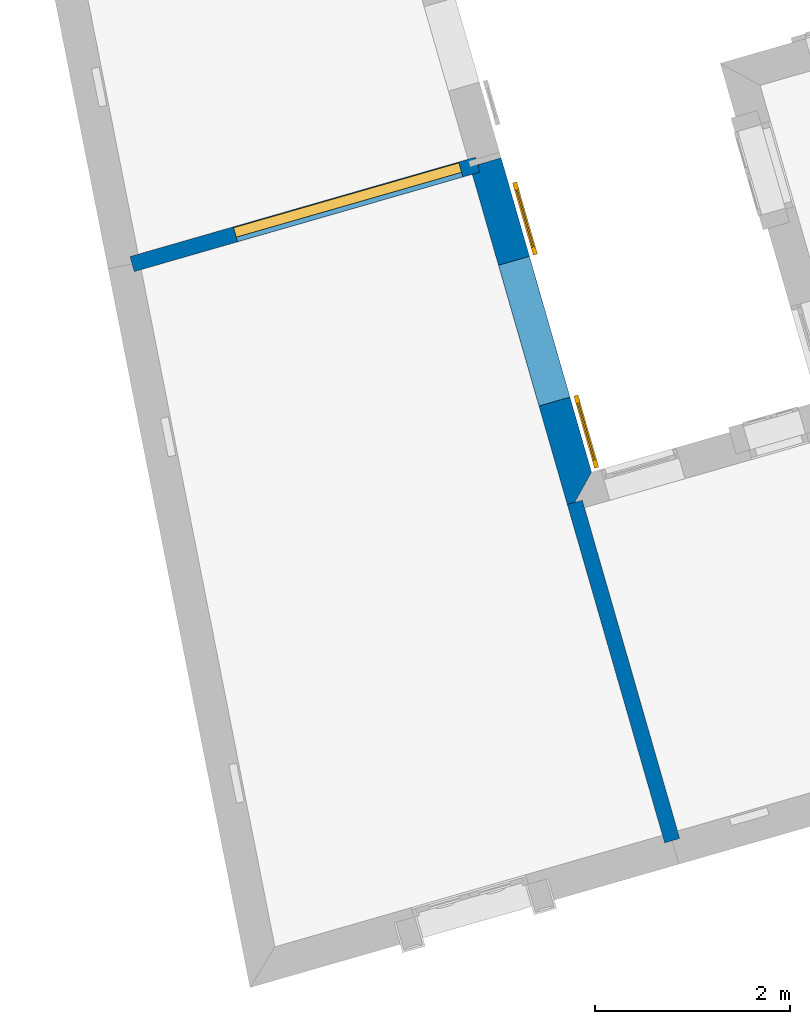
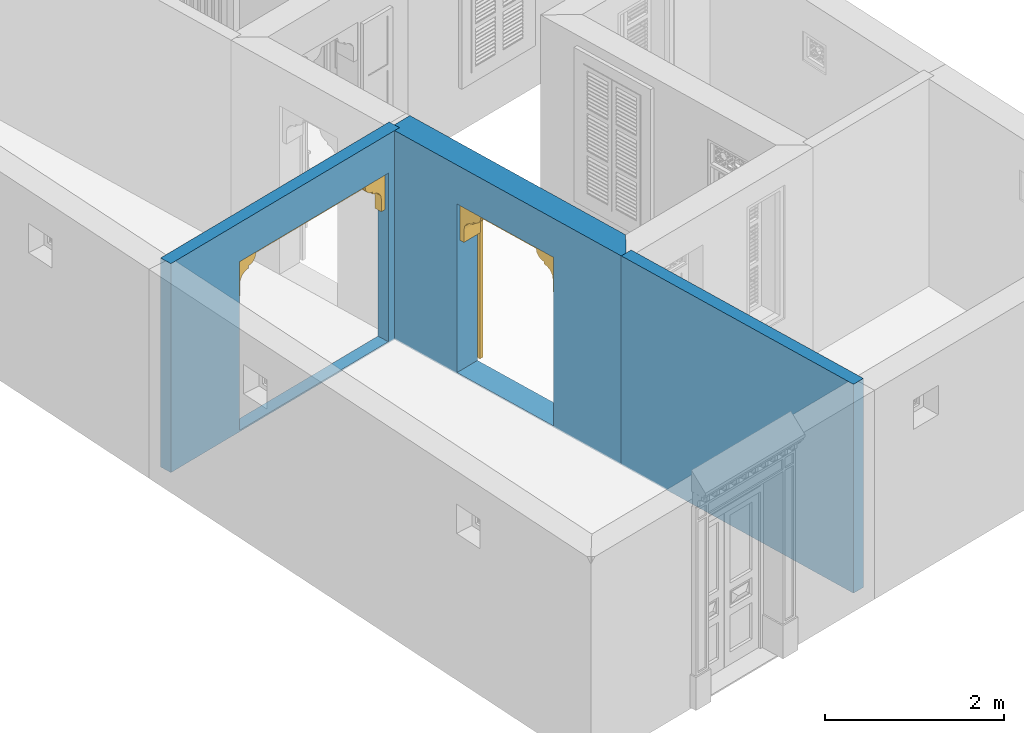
# One storey, part 3 of 16: 3 walls, 2 doors, 2 openings.
"""IFC4 building model written with IfcOpenShell, lengths in metres."""

from ifc_helpers import new_model, si_unit, frame, origin, origin_with_axes, place, context, subcontext, project, spatial, polyline, outline, extrude, faceted_brep, source, transform, mapped, material, layer, layer_set, layer_usage, type_object, type_shapes, element, fill, save


model = new_model("IFC4")

# Units and contexts
model_context = context("Model", 3, world=origin_with_axes())
body_context = subcontext(model_context, "Body", "Model", "MODEL_VIEW")
ifc_project = project(units=[si_unit("PLANEANGLEUNIT", "RADIAN"), si_unit("MASSUNIT", "GRAM", prefix="KILO"), si_unit("FORCEUNIT", "NEWTON", prefix="KILO"), si_unit("LENGTHUNIT", "METRE"), si_unit("AREAUNIT", "SQUARE_METRE"), si_unit("VOLUMEUNIT", "CUBIC_METRE")], contexts=[model_context, model_context])

# Site, building, storey
site_placement = place(None, origin_with_axes())
site = spatial("IfcSite", under=ifc_project, at=site_placement, Name="Site plot-9", CompositionType="ELEMENT")
building_placement = place(None, origin_with_axes())
building = spatial("IfcBuilding", under=site, at=building_placement, Name="Building plot-9", CompositionType="ELEMENT")
storey_placement = place(None, origin_with_axes())
storey = spatial("IfcBuildingStorey", under=building, at=storey_placement, Name="plot-9 0", CompositionType="ELEMENT", Elevation=0.0)

# Wall, opening, door
ifc_material_1 = material(Name="Masonry")
ifc_layer_1 = layer(ifc_material_1, 0.33, ventilated=False)
ifc_layer_set_1 = layer_set([ifc_layer_1], Name="exterior_0.08_0.25")
ifc_layer_usage_1 = layer_usage(ifc_layer_set_1, "AXIS2", "POSITIVE", -0.25)
wall_type_1 = type_object("IfcWallType", Name="exterior_0.08_0.25", PredefinedType="SOLIDWALL", material=ifc_layer_set_1)
wall_1_placement = place(storey_placement, frame((-17.0911735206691, -2.13319942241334, 0.0), z_axis=(0.0, 0.0, 1.0), x_axis=(-0.27652304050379, 0.961007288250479, 0.0)))
wall_1 = element("IfcWall", 1, at=wall_1_placement, inside=storey, type_object=wall_type_1, material=ifc_layer_usage_1, Name="exterior", context=body_context, shape_type="SweptSolid", body=[
    extrude(outline(polyline([(-0.0799999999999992, 0.0800000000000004), (0.249999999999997, -0.250000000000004), (3.59686229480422, -0.250000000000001), (3.59686229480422, 0.0800000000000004), (-0.0799999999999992, 0.0800000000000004)])), origin_with_axes(), (0.0, 0.0, 1.0), 2.85),
])
opening_1_placement = place(wall_1_placement, frame((1.04843114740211, 0.0, 0.02)))
opening_1 = element("IfcOpeningElement", 2, at=opening_1_placement, cuts=wall_1, Name="My Opening", ObjectType="Opening", context=body_context, shape_type="SweptSolid", body=[
    extrude(outline(polyline([(0.0, -0.270000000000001), (1.5, -0.269999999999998), (1.5, 1.1), (-6.66133814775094e-16, 1.1), (0.0, -0.270000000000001)])), origin_with_axes(), (0.0, 0.0, 1.0), 2.3),
])
door_type_1 = type_object("IfcDoorType", Name="arch-1500x2300", OperationType="SINGLE_SWING_LEFT", PredefinedType="NOTDEFINED")
shared_shape_1 = source(origin(), body_context, "Body", "Brep", [
    faceted_brep([(-0.08, -0.02, 0.08), (-0.08, -0.02, 0.0), (-0.69, -0.02, 0.0), (-0.69, -0.02, 0.08), (-0.77, -0.02, 0.0), (-0.77, -0.02, 0.08), (-0.69, -0.035, 0.08), (-0.08, -0.035, 0.08), (0.0, -0.02, 0.08), (0.0, -0.02, 0.0), (-0.08, -0.066, 0.0), (-0.69, -0.066, 0.0), (-0.77, -0.066, 0.0), (-0.77, -0.066, 0.08), (-0.69, -0.02, 0.743333), (-0.77, -0.02, 0.743333), (-0.69, -0.035, 0.743333), (-0.08, -0.035, 0.743333), (-0.08, -0.02, 0.743333), (0.0, -0.02, 0.743333), (0.0, -0.066, 0.08), (0.0, -0.066, 0.0), (-0.69, -0.066, 0.08), (-0.08, -0.066, 0.08), (-0.77, -0.066, 0.743333), (-0.69, -0.02, 0.823333), (-0.77, -0.02, 0.823333), (0.0, -0.066, 0.743333), (0.0, -0.02, 0.823333), (-0.08, -0.02, 0.823333), (-0.08, -0.051, 0.08), (-0.69, -0.051, 0.08), (-0.69, -0.066, 0.743333), (-0.77, -0.066, 0.823333), (-0.69, -0.02, 1.486667), (-0.77, -0.02, 1.486667), (0.0, -0.066, 0.823333), (-0.08, -0.066, 0.743333), (0.0, -0.02, 1.486667), (-0.08, -0.02, 1.486667), (-0.08, -0.051, 0.743333), (-0.69, -0.051, 0.743333), (-0.69, -0.066, 0.823333), (-0.77, -0.066, 1.486667), (-0.69, -0.035, 0.823333), (-0.08, -0.035, 0.823333), (-0.69, -0.035, 1.486667), (-0.69, -0.02, 1.566667), (-0.77, -0.02, 1.566667), (0.0, -0.066, 1.486667), (-0.08, -0.066, 0.823333), (-0.08, -0.035, 1.486667), (0.0, -0.02, 1.566667), (-0.08, -0.02, 1.566667), (-0.69, -0.066, 1.486667), (-0.77, -0.066, 1.566667), (-0.69, -0.02, 2.23), (-0.77, -0.02, 2.23), (0.0, -0.066, 1.566667), (-0.08, -0.066, 1.486667), (0.0, -0.02, 2.23), (-0.08, -0.02, 2.23), (-0.08, -0.051, 0.823333), (-0.69, -0.051, 0.823333), (-0.69, -0.051, 1.486667), (-0.69, -0.066, 1.566667), (-0.77, -0.066, 2.23), (-0.69, -0.035, 1.566667), (-0.08, -0.035, 1.566667), (-0.69, -0.035, 2.23), (-0.69, -0.02, 2.31), (-0.77, -0.02, 2.31), (0.0, -0.066, 2.23), (-0.08, -0.066, 1.566667), (-0.08, -0.051, 1.486667), (-0.08, -0.035, 2.23), (0.0, -0.02, 2.31), (-0.08, -0.02, 2.31), (-0.69, -0.066, 2.23), (-0.77, -0.066, 2.31), (-0.69, -0.066, 2.31), (0.0, -0.066, 2.31), (-0.08, -0.066, 2.23), (-0.08, -0.066, 2.31), (-0.08, -0.051, 1.566667), (-0.69, -0.051, 1.566667), (-0.69, -0.051, 2.23), (-0.08, -0.051, 2.23), (2.19, -0.02, 0.08), (2.19, -0.02, 0.0), (1.58, -0.02, 0.0), (1.58, -0.02, 0.08), (2.27, -0.02, 0.08), (2.27, -0.02, 0.0), (1.58, -0.035, 0.08), (2.19, -0.035, 0.08), (1.5, -0.02, 0.0), (1.5, -0.02, 0.08), (2.19, -0.066, 0.0), (1.58, -0.066, 0.0), (2.27, -0.066, 0.08), (2.27, -0.066, 0.0), (2.27, -0.02, 0.743333), (2.19, -0.02, 0.743333), (2.19, -0.035, 0.743333), (1.58, -0.035, 0.743333), (1.58, -0.02, 0.743333), (1.5, -0.02, 0.743333), (1.5, -0.066, 0.0), (1.5, -0.066, 0.08), (1.58, -0.066, 0.08), (2.19, -0.066, 0.08), (2.27, -0.066, 0.743333), (2.27, -0.02, 0.823333), (2.19, -0.02, 0.823333), (1.5, -0.066, 0.743333), (1.58, -0.02, 0.823333), (1.5, -0.02, 0.823333), (2.19, -0.051, 0.08), (1.58, -0.051, 0.08), (2.19, -0.066, 0.743333), (2.27, -0.066, 0.823333), (2.27, -0.02, 1.486667), (2.19, -0.02, 1.486667), (1.5, -0.066, 0.823333), (1.58, -0.066, 0.743333), (1.58, -0.02, 1.486667), (1.5, -0.02, 1.486667), (1.58, -0.051, 0.743333), (2.19, -0.051, 0.743333), (2.19, -0.066, 0.823333), (2.27, -0.066, 1.486667), (1.58, -0.035, 0.823333), (2.19, -0.035, 0.823333), (2.19, -0.035, 1.486667), (2.27, -0.02, 1.566667), (2.19, -0.02, 1.566667), (1.5, -0.066, 1.486667), (1.58, -0.066, 0.823333), (1.58, -0.035, 1.486667), (1.58, -0.02, 1.566667), (1.5, -0.02, 1.566667), (2.19, -0.066, 1.486667), (2.27, -0.066, 1.566667), (2.27, -0.02, 2.23), (2.19, -0.02, 2.23), (1.5, -0.066, 1.566667), (1.58, -0.066, 1.486667), (1.58, -0.02, 2.23), (1.5, -0.02, 2.23), (2.19, -0.051, 0.823333), (1.58, -0.051, 0.823333), (2.19, -0.051, 1.486667), (2.19, -0.066, 1.566667), (2.27, -0.066, 2.23), (1.58, -0.035, 1.566667), (2.19, -0.035, 1.566667), (2.19, -0.035, 2.23), (2.27, -0.02, 2.31), (2.19, -0.02, 2.31), (1.5, -0.066, 2.23), (1.58, -0.066, 1.566667), (1.58, -0.051, 1.486667), (1.58, -0.035, 2.23), (1.58, -0.02, 2.31), (1.5, -0.02, 2.31), (2.19, -0.066, 2.23), (2.27, -0.066, 2.31), (2.19, -0.066, 2.31), (1.5, -0.066, 2.31), (1.58, -0.066, 2.23), (1.58, -0.066, 2.31), (2.19, -0.051, 1.566667), (1.58, -0.051, 1.566667), (2.19, -0.051, 2.23), (1.58, -0.051, 2.23), (1.5, 0.03, 1.78), (1.5, 0.03, 1.95), (1.44, 0.03, 1.95), (1.44, 0.03, 1.78), (1.44, 0.3, 1.95), (1.44, 0.3, 1.78), (1.5, 0.03, 2.12), (1.429, 0.03, 2.004), (1.5, 0.3, 1.78), (1.5, 0.3, 1.95), (1.429, 0.3, 2.004), (1.399, 0.03, 2.049), (1.5, 0.3, 2.12), (1.399, 0.3, 2.049), (1.354, 0.03, 2.079), (1.5, 0.3, 2.29), (1.5, 0.03, 2.29), (1.354, 0.3, 2.079), (1.3, 0.03, 2.09), (1.3, 0.03, 2.12), (1.254, 0.03, 2.129), (1.18, 0.3, 2.29), (1.18, 0.03, 2.29), (1.3, 0.3, 2.12), (1.254, 0.3, 2.129), (1.3, 0.3, 2.09), (1.215, 0.03, 2.155), (1.189, 0.3, 2.194), (1.18, 0.3, 2.24), (1.18, 0.03, 2.24), (1.189, 0.03, 2.194), (1.215, 0.3, 2.155), (0.06, 0.03, 1.78), (0.06, 0.03, 1.95), (0.0, 0.03, 1.95), (0.0, 0.03, 1.78), (0.06, 0.3, 1.78), (0.06, 0.3, 1.95), (0.071, 0.03, 2.004), (0.0, 0.03, 2.12), (0.0, 0.3, 1.95), (0.0, 0.3, 1.78), (0.071, 0.3, 2.004), (0.101, 0.03, 2.049), (0.0, 0.3, 2.12), (0.101, 0.3, 2.049), (0.146, 0.03, 2.079), (0.0, 0.03, 2.29), (0.0, 0.3, 2.29), (0.146, 0.3, 2.079), (0.2, 0.03, 2.12), (0.2, 0.03, 2.09), (0.246, 0.03, 2.129), (0.32, 0.03, 2.29), (0.32, 0.3, 2.29), (0.246, 0.3, 2.129), (0.2, 0.3, 2.12), (0.2, 0.3, 2.09), (0.285, 0.03, 2.155), (0.32, 0.3, 2.24), (0.311, 0.3, 2.194), (0.311, 0.03, 2.194), (0.32, 0.03, 2.24), (0.285, 0.3, 2.155)], [[[0, 1, 2, 3]], [[4, 5, 3, 2]], [[0, 3, 6, 7]], [[1, 0, 8, 9]], [[2, 1, 10, 11]], [[5, 4, 12, 13]], [[14, 3, 5, 15]], [[4, 2, 11, 12]], [[3, 14, 16, 6]], [[6, 16, 17, 7]], [[18, 0, 7, 17]], [[0, 18, 19, 8]], [[9, 8, 20, 21]], [[1, 9, 21, 10]], [[22, 11, 10, 23]], [[13, 12, 11, 22]], [[15, 5, 13, 24]], [[25, 14, 15, 26]], [[14, 18, 17, 16]], [[8, 19, 27, 20]], [[28, 19, 18, 29]], [[23, 10, 21, 20]], [[22, 23, 30, 31]], [[22, 32, 24, 13]], [[26, 15, 24, 33]], [[29, 18, 14, 25]], [[34, 25, 26, 35]], [[19, 28, 36, 27]], [[20, 27, 37, 23]], [[38, 28, 29, 39]], [[23, 37, 40, 30]], [[41, 31, 30, 40]], [[32, 22, 31, 41]], [[32, 42, 33, 24]], [[35, 26, 33, 43]], [[29, 25, 44, 45]], [[25, 34, 46, 44]], [[47, 34, 35, 48]], [[28, 38, 49, 36]], [[27, 36, 50, 37]], [[39, 29, 45, 51]], [[52, 38, 39, 53]], [[37, 32, 41, 40]], [[37, 50, 42, 32]], [[42, 54, 43, 33]], [[48, 35, 43, 55]], [[44, 46, 51, 45]], [[34, 39, 51, 46]], [[34, 47, 53, 39]], [[56, 47, 48, 57]], [[38, 52, 58, 49]], [[36, 49, 59, 50]], [[60, 52, 53, 61]], [[42, 50, 62, 63]], [[54, 42, 63, 64]], [[54, 65, 55, 43]], [[57, 48, 55, 66]], [[53, 47, 67, 68]], [[47, 56, 69, 67]], [[70, 56, 57, 71]], [[52, 60, 72, 58]], [[49, 58, 73, 59]], [[50, 59, 74, 62]], [[61, 53, 68, 75]], [[76, 60, 61, 77]], [[64, 63, 62, 74]], [[59, 54, 64, 74]], [[65, 54, 59, 73]], [[65, 78, 66, 55]], [[71, 57, 66, 79]], [[67, 69, 75, 68]], [[56, 61, 75, 69]], [[77, 61, 56, 70]], [[70, 71, 79, 80]], [[60, 76, 81, 72]], [[58, 72, 82, 73]], [[76, 77, 83, 81]], [[65, 73, 84, 85]], [[78, 65, 85, 86]], [[78, 80, 79, 66]], [[77, 70, 80, 83]], [[72, 81, 83, 82]], [[73, 82, 87, 84]], [[86, 85, 84, 87]], [[82, 78, 86, 87]], [[82, 83, 80, 78]], [[88, 89, 90, 91]], [[89, 88, 92, 93]], [[94, 95, 88, 91]], [[96, 97, 91, 90]], [[98, 99, 90, 89]], [[100, 101, 93, 92]], [[102, 92, 88, 103]], [[101, 98, 89, 93]], [[95, 104, 103, 88]], [[94, 105, 104, 95]], [[105, 94, 91, 106]], [[97, 107, 106, 91]], [[108, 109, 97, 96]], [[99, 108, 96, 90]], [[110, 99, 98, 111]], [[111, 98, 101, 100]], [[112, 100, 92, 102]], [[113, 102, 103, 114]], [[104, 105, 106, 103]], [[109, 115, 107, 97]], [[116, 106, 107, 117]], [[109, 108, 99, 110]], [[118, 119, 110, 111]], [[100, 112, 120, 111]], [[121, 112, 102, 113]], [[114, 103, 106, 116]], [[122, 113, 114, 123]], [[115, 124, 117, 107]], [[110, 125, 115, 109]], [[126, 116, 117, 127]], [[119, 128, 125, 110]], [[128, 119, 118, 129]], [[129, 118, 111, 120]], [[112, 121, 130, 120]], [[131, 121, 113, 122]], [[132, 133, 114, 116]], [[133, 134, 123, 114]], [[135, 122, 123, 136]], [[124, 137, 127, 117]], [[125, 138, 124, 115]], [[139, 132, 116, 126]], [[140, 126, 127, 141]], [[128, 129, 120, 125]], [[120, 130, 138, 125]], [[121, 131, 142, 130]], [[143, 131, 122, 135]], [[132, 139, 134, 133]], [[134, 139, 126, 123]], [[126, 140, 136, 123]], [[144, 135, 136, 145]], [[137, 146, 141, 127]], [[138, 147, 137, 124]], [[148, 140, 141, 149]], [[150, 151, 138, 130]], [[152, 150, 130, 142]], [[131, 143, 153, 142]], [[154, 143, 135, 144]], [[155, 156, 136, 140]], [[156, 157, 145, 136]], [[158, 144, 145, 159]], [[146, 160, 149, 141]], [[147, 161, 146, 137]], [[151, 162, 147, 138]], [[163, 155, 140, 148]], [[164, 148, 149, 165]], [[162, 151, 150, 152]], [[162, 152, 142, 147]], [[161, 147, 142, 153]], [[143, 154, 166, 153]], [[167, 154, 144, 158]], [[155, 163, 157, 156]], [[157, 163, 148, 145]], [[159, 145, 148, 164]], [[168, 167, 158, 159]], [[160, 169, 165, 149]], [[161, 170, 160, 146]], [[169, 171, 164, 165]], [[172, 173, 161, 153]], [[174, 172, 153, 166]], [[154, 167, 168, 166]], [[171, 168, 159, 164]], [[170, 171, 169, 160]], [[173, 175, 170, 161]], [[175, 173, 172, 174]], [[175, 174, 166, 170]], [[166, 168, 171, 170]], [[176, 177, 178, 179]], [[180, 181, 179, 178]], [[177, 182, 183, 178]], [[177, 176, 184, 185]], [[181, 184, 176, 179]], [[181, 180, 185, 184]], [[186, 180, 178, 183]], [[182, 187, 183]], [[182, 177, 185, 188]], [[180, 186, 188, 185]], [[189, 186, 183, 187]], [[182, 190, 187]], [[188, 191, 192, 182]], [[188, 186, 189]], [[193, 189, 187, 190]], [[194, 190, 182, 195]], [[182, 192, 196, 195]], [[192, 191, 197, 198]], [[199, 200, 191, 188]], [[188, 189, 193]], [[201, 193, 190, 194]], [[199, 201, 194, 195]], [[200, 199, 195, 196]], [[192, 202, 196]], [[191, 203, 204, 197]], [[192, 198, 205, 206]], [[207, 191, 200]], [[199, 188, 193, 201]], [[207, 200, 196, 202]], [[192, 206, 202]], [[204, 203, 206, 205]], [[203, 191, 207]], [[203, 207, 202, 206]], [[208, 209, 210, 211]], [[209, 208, 212, 213]], [[209, 214, 215, 210]], [[211, 210, 216, 217]], [[208, 211, 217, 212]], [[217, 216, 213, 212]], [[214, 209, 213, 218]], [[214, 219, 215]], [[220, 216, 210, 215]], [[216, 220, 218, 213]], [[219, 214, 218, 221]], [[219, 222, 215]], [[215, 223, 224, 220]], [[221, 218, 220]], [[222, 219, 221, 225]], [[226, 215, 222, 227]], [[226, 228, 223, 215]], [[229, 230, 224, 223]], [[220, 224, 231, 232]], [[225, 221, 220]], [[227, 222, 225, 233]], [[226, 227, 233, 232]], [[228, 226, 232, 231]], [[228, 234, 223]], [[230, 235, 236, 224]], [[237, 238, 229, 223]], [[231, 224, 239]], [[233, 225, 220, 232]], [[234, 228, 231, 239]], [[234, 237, 223]], [[238, 237, 236, 235]], [[239, 224, 236]], [[237, 234, 239, 236]], [[238, 235, 204, 205]], [[235, 230, 197, 204]], [[229, 238, 205, 198]], [[230, 229, 198, 197]]]),
])
type_shapes(door_type_1, [shared_shape_1])
door_1_placement = place(storey_placement, frame((-17.12161692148, -1.05098822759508, 0.02), z_axis=(0.0, 0.0, 1.0), x_axis=(-0.414784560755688, 1.44151093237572, 0.0)))
door_1 = element("IfcDoor", 3, at=door_1_placement, inside=storey, type_object=door_type_1, Name="living sahn door", OverallHeight=2.3, OverallWidth=1.5, context=body_context, shape_type="MappedRepresentation", body=[
    mapped(shared_shape_1, transform((0.0, 0.0, 0.0), scale=1.0)),
])
fill(opening_1, door_1)

# Wall
ifc_material_2 = material(Name="Masonry")
ifc_layer_2 = layer(ifc_material_2, 0.16, ventilated=False)
ifc_layer_set_2 = layer_set([ifc_layer_2], Name="interior_0.08_0.08")
ifc_layer_usage_2 = layer_usage(ifc_layer_set_2, "AXIS2", "POSITIVE", -0.08)
wall_type_2 = type_object("IfcWallType", Name="interior_0.08_0.08", PredefinedType="SOLIDWALL", material=ifc_layer_set_2)
wall_2_placement = place(storey_placement, frame((-17.0911735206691, -2.13319942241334, 0.0), z_axis=(0.0, 0.0, 1.0), x_axis=(0.276523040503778, -0.961007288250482, 0.0)))
element("IfcWall", 4, at=wall_2_placement, inside=storey, type_object=wall_type_2, material=ifc_layer_usage_2, Name="interior", context=body_context, shape_type="SweptSolid", body=[
    extrude(outline(polyline([(-4.83921179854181e-17, 0.08), (5.63585119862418e-17, -0.08), (3.60437012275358, -0.0800000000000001), (3.60437012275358, 0.0800000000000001), (-4.83921179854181e-17, 0.08)])), origin_with_axes(), (0.0, 0.0, 1.0), 2.85),
])

# Wall, opening, door
wall_3_placement = place(storey_placement, frame((-18.0857888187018, 1.32341145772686, 0.0), z_axis=(0.0, 0.0, 1.0), x_axis=(-0.961007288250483, -0.276523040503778, 0.0)))
wall_3 = element("IfcWall", 5, at=wall_3_placement, inside=storey, type_object=wall_type_2, material=ifc_layer_usage_2, Name="interior", context=body_context, shape_type="SweptSolid", body=[
    extrude(outline(polyline([(-5.83129950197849e-16, 0.0800000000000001), (5.37805639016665e-16, -0.0800000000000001), (3.68084635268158, -0.0800000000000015), (3.68084635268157, 0.0799999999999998), (-5.83129950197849e-16, 0.0800000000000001)])), origin_with_axes(), (0.0, 0.0, 1.0), 2.85),
])
opening_2_placement = place(wall_3_placement, frame((0.180000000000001, 0.0, 0.02)))
opening_2 = element("IfcOpeningElement", 6, at=opening_2_placement, cuts=wall_3, Name="My Opening", ObjectType="Opening", context=body_context, shape_type="SweptSolid", body=[
    extrude(outline(polyline([(0.0, -0.1), (2.4, -0.1), (2.4, 1.1), (-1.08246744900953e-15, 1.1), (0.0, -0.1)])), origin_with_axes(), (0.0, 0.0, 1.0), 2.3),
])
door_type_2 = type_object("IfcDoorType", Name="arch-2400x2300-thin", OperationType="SINGLE_SWING_LEFT", PredefinedType="NOTDEFINED")
shared_shape_2 = source(origin(), body_context, "Body", "Brep", [
    faceted_brep([(2.4, 0.03, 1.78), (2.4, 0.03, 1.95), (2.34, 0.03, 1.95), (2.34, 0.03, 1.78), (2.34, 0.13, 1.95), (2.34, 0.13, 1.78), (2.4, 0.03, 2.12), (2.329, 0.03, 2.004), (2.4, 0.13, 1.78), (2.4, 0.13, 1.95), (2.329, 0.13, 2.004), (2.299, 0.03, 2.049), (2.4, 0.13, 2.12), (2.299, 0.13, 2.049), (2.254, 0.03, 2.079), (2.4, 0.13, 2.29), (2.4, 0.03, 2.29), (2.254, 0.13, 2.079), (2.2, 0.03, 2.09), (2.2, 0.03, 2.12), (2.154, 0.03, 2.129), (2.08, 0.13, 2.29), (2.08, 0.03, 2.29), (2.2, 0.13, 2.12), (2.154, 0.13, 2.129), (2.2, 0.13, 2.09), (2.115, 0.03, 2.155), (2.089, 0.13, 2.194), (2.08, 0.13, 2.24), (2.08, 0.03, 2.24), (2.089, 0.03, 2.194), (2.115, 0.13, 2.155), (0.06, 0.03, 1.78), (0.06, 0.03, 1.95), (0.0, 0.03, 1.95), (0.0, 0.03, 1.78), (0.06, 0.13, 1.78), (0.06, 0.13, 1.95), (0.071, 0.03, 2.004), (0.0, 0.03, 2.12), (0.0, 0.13, 1.95), (0.0, 0.13, 1.78), (0.071, 0.13, 2.004), (0.101, 0.03, 2.049), (0.0, 0.13, 2.12), (0.101, 0.13, 2.049), (0.146, 0.03, 2.079), (0.0, 0.03, 2.29), (0.0, 0.13, 2.29), (0.146, 0.13, 2.079), (0.2, 0.03, 2.12), (0.2, 0.03, 2.09), (0.246, 0.03, 2.129), (0.32, 0.03, 2.29), (0.32, 0.13, 2.29), (0.246, 0.13, 2.129), (0.2, 0.13, 2.12), (0.2, 0.13, 2.09), (0.285, 0.03, 2.155), (0.32, 0.13, 2.24), (0.311, 0.13, 2.194), (0.311, 0.03, 2.194), (0.32, 0.03, 2.24), (0.285, 0.13, 2.155)], [[[0, 1, 2, 3]], [[4, 5, 3, 2]], [[1, 6, 7, 2]], [[1, 0, 8, 9]], [[5, 8, 0, 3]], [[5, 4, 9, 8]], [[10, 4, 2, 7]], [[6, 11, 7]], [[6, 1, 9, 12]], [[4, 10, 12, 9]], [[13, 10, 7, 11]], [[6, 14, 11]], [[12, 15, 16, 6]], [[12, 10, 13]], [[17, 13, 11, 14]], [[18, 14, 6, 19]], [[6, 16, 20, 19]], [[16, 15, 21, 22]], [[23, 24, 15, 12]], [[12, 13, 17]], [[25, 17, 14, 18]], [[23, 25, 18, 19]], [[24, 23, 19, 20]], [[16, 26, 20]], [[15, 27, 28, 21]], [[16, 22, 29, 30]], [[31, 15, 24]], [[23, 12, 17, 25]], [[31, 24, 20, 26]], [[16, 30, 26]], [[28, 27, 30, 29]], [[27, 15, 31]], [[27, 31, 26, 30]], [[32, 33, 34, 35]], [[33, 32, 36, 37]], [[33, 38, 39, 34]], [[35, 34, 40, 41]], [[32, 35, 41, 36]], [[41, 40, 37, 36]], [[38, 33, 37, 42]], [[38, 43, 39]], [[44, 40, 34, 39]], [[40, 44, 42, 37]], [[43, 38, 42, 45]], [[43, 46, 39]], [[39, 47, 48, 44]], [[45, 42, 44]], [[46, 43, 45, 49]], [[50, 39, 46, 51]], [[50, 52, 47, 39]], [[53, 54, 48, 47]], [[44, 48, 55, 56]], [[49, 45, 44]], [[51, 46, 49, 57]], [[50, 51, 57, 56]], [[52, 50, 56, 55]], [[52, 58, 47]], [[54, 59, 60, 48]], [[61, 62, 53, 47]], [[55, 48, 63]], [[57, 49, 44, 56]], [[58, 52, 55, 63]], [[58, 61, 47]], [[62, 61, 60, 59]], [[63, 48, 60]], [[61, 58, 63, 60]], [[62, 59, 28, 29]], [[59, 54, 21, 28]], [[53, 62, 29, 22]], [[54, 53, 22, 21]]]),
])
type_shapes(door_type_2, [shared_shape_2])
door_2_placement = place(storey_placement, frame((-18.2864224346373, 1.36973803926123, 0.02), z_axis=(0.0, 0.0, 1.0), x_axis=(-2.30641749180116, -0.663655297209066, 0.0)))
door_2 = element("IfcDoor", 7, at=door_2_placement, inside=storey, type_object=door_type_2, Name="kitchen living inside door", OverallHeight=2.3, OverallWidth=2.4, context=body_context, shape_type="MappedRepresentation", body=[
    mapped(shared_shape_2, transform((0.0, 0.0, 0.0), scale=1.0)),
])
fill(opening_2, door_2)

save(model, "model.ifc")
